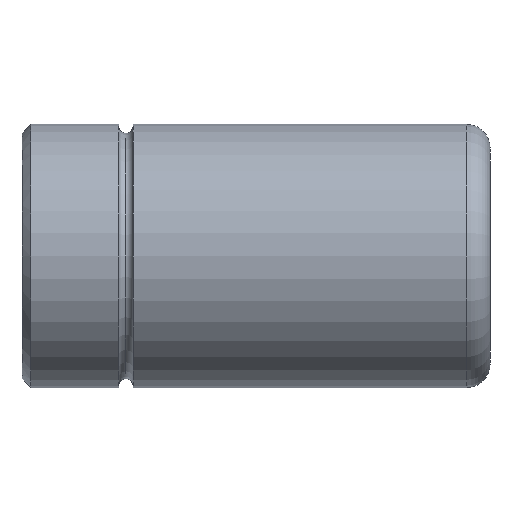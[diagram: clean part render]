
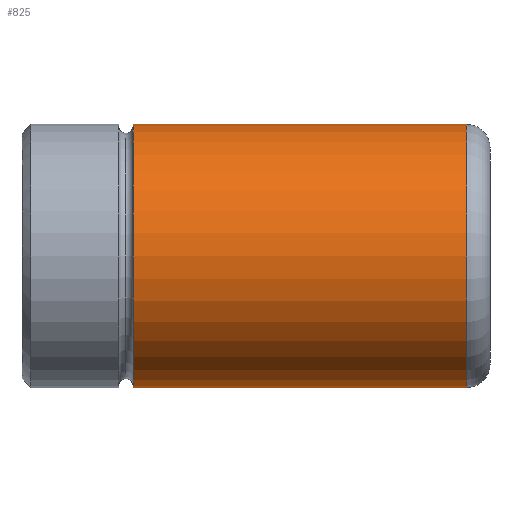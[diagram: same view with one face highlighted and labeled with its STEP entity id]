
A CAD part, front view. The second image highlights one B-rep face of the part: STEP entity #825.
In plain terms, the highlighted cylindrical face has radius 22.5 mm (diameter 45 mm), a partial arc.
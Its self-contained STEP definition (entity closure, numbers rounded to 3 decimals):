
#641=CARTESIAN_POINT('Vertex',(18.975,0.,22.5)) ;
#648=CARTESIAN_POINT('Vertex',(18.975,0.,-22.5)) ;
#674=CARTESIAN_POINT('Axis2P3D Location',(18.975,0.,0.)) ;
#678=CARTESIAN_POINT('Vertex',(18.975,-22.5,0.)) ;
#681=CARTESIAN_POINT('Axis2P3D Location',(18.975,0.,0.)) ;
#765=CARTESIAN_POINT('Line Origine',(80.,0.,22.5)) ;
#769=CARTESIAN_POINT('Vertex',(76.,0.,22.5)) ;
#783=CARTESIAN_POINT('Vertex',(76.,0.,-22.5)) ;
#786=CARTESIAN_POINT('Line Origine',(80.,0.,-22.5)) ;
#800=CARTESIAN_POINT('Axis2P3D Location',(80.,0.,0.)) ;
#805=CARTESIAN_POINT('Axis2P3D Location',(76.,0.,0.)) ;
#809=CARTESIAN_POINT('Vertex',(76.,-22.5,0.)) ;
#812=CARTESIAN_POINT('Axis2P3D Location',(76.,0.,0.)) ;
#675=DIRECTION('Axis2P3D Direction',(1.,0.,-0.)) ;
#682=DIRECTION('Axis2P3D Direction',(1.,0.,-0.)) ;
#766=DIRECTION('Vector Direction',(-1.,0.,0.)) ;
#787=DIRECTION('Vector Direction',(-1.,0.,0.)) ;
#801=DIRECTION('Axis2P3D Direction',(-1.,-0.,-0.)) ;
#802=DIRECTION('Axis2P3D XDirection',(0.,0.,-1.)) ;
#806=DIRECTION('Axis2P3D Direction',(-1.,-0.,-0.)) ;
#813=DIRECTION('Axis2P3D Direction',(-1.,-0.,-0.)) ;
#676=AXIS2_PLACEMENT_3D('Circle Axis2P3D',#674,#675,$) ;
#683=AXIS2_PLACEMENT_3D('Circle Axis2P3D',#681,#682,$) ;
#803=AXIS2_PLACEMENT_3D('Cylinder Axis2P3D',#800,#801,#802) ;
#807=AXIS2_PLACEMENT_3D('Circle Axis2P3D',#805,#806,$) ;
#814=AXIS2_PLACEMENT_3D('Circle Axis2P3D',#812,#813,$) ;
#818=ORIENTED_EDGE('',*,*,#790,.T.) ;
#819=ORIENTED_EDGE('',*,*,#811,.F.) ;
#820=ORIENTED_EDGE('',*,*,#816,.F.) ;
#821=ORIENTED_EDGE('',*,*,#771,.T.) ;
#822=ORIENTED_EDGE('',*,*,#685,.T.) ;
#823=ORIENTED_EDGE('',*,*,#680,.T.) ;
#767=VECTOR('Line Direction',#766,1.) ;
#788=VECTOR('Line Direction',#787,1.) ;
#825=ADVANCED_FACE('348-30 x 80',(#824),#804,.T.) ;
#677=CIRCLE('generated circle',#676,22.5) ;
#684=CIRCLE('generated circle',#683,22.5) ;
#808=CIRCLE('generated circle',#807,22.5) ;
#815=CIRCLE('generated circle',#814,22.5) ;
#804=CYLINDRICAL_SURFACE('generated cylinder',#803,22.5) ;
#680=EDGE_CURVE('',#679,#649,#677,.T.) ;
#685=EDGE_CURVE('',#642,#679,#684,.T.) ;
#771=EDGE_CURVE('',#770,#642,#768,.T.) ;
#790=EDGE_CURVE('',#649,#784,#789,.F.) ;
#811=EDGE_CURVE('',#810,#784,#808,.F.) ;
#816=EDGE_CURVE('',#770,#810,#815,.F.) ;
#817=EDGE_LOOP('',(#818,#819,#820,#821,#822,#823)) ;
#824=FACE_OUTER_BOUND('',#817,.T.) ;
#768=LINE('Line',#765,#767) ;
#789=LINE('Line',#786,#788) ;
#642=VERTEX_POINT('',#641) ;
#649=VERTEX_POINT('',#648) ;
#679=VERTEX_POINT('',#678) ;
#770=VERTEX_POINT('',#769) ;
#784=VERTEX_POINT('',#783) ;
#810=VERTEX_POINT('',#809) ;
